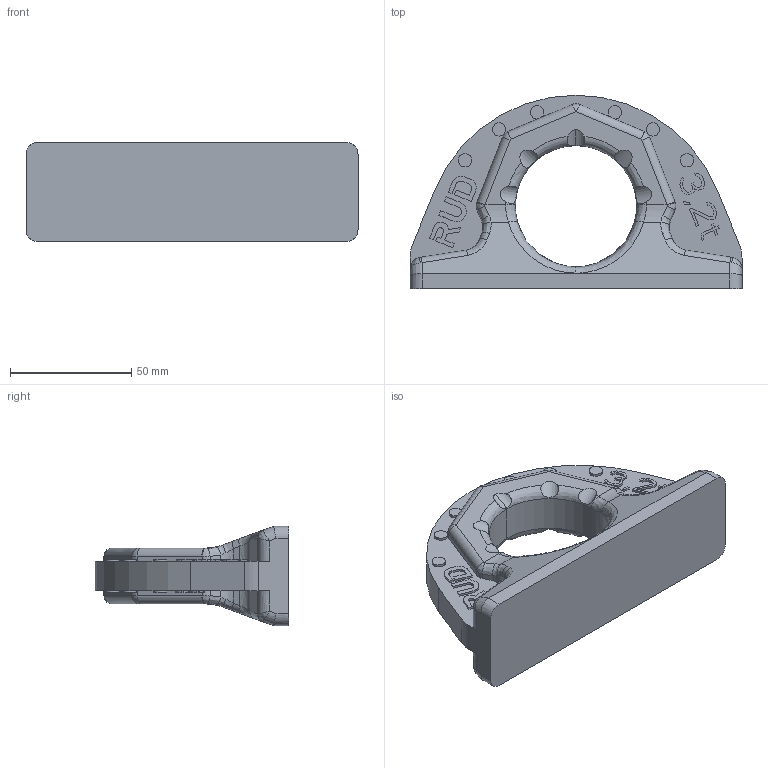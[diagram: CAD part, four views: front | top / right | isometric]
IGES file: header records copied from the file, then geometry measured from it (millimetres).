
Start section:  PTC IGES file: 001-m33972-p1.igs
Global section: file name: 001-m33972-p1.igs; native system: Pro/ENGINEER by Parametric Technology Corporation; preprocessor: 2010140; author: Rehwagena; organization: Unknown; date: 20100917.115443; units: millimetre
Bounding box: 137 x 79.8 x 41 mm (x, y, z)
Volume: 157398.3 mm3; surface area: 29686.8 mm2
Topology: 1 solids, 1 shells, 415 faces, 1101 edges, 710 vertices
Faces by surface type: bspline 320, revolution 95
